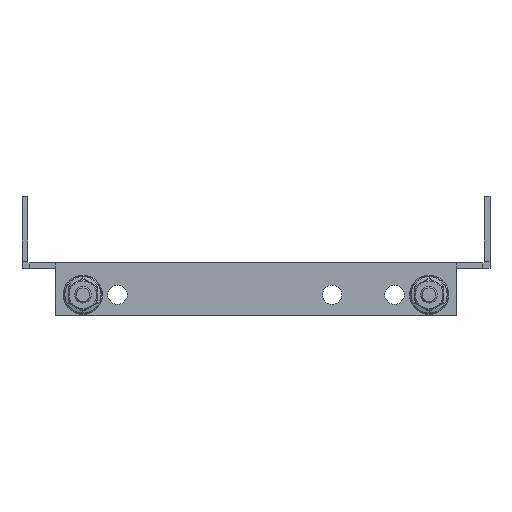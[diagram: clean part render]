
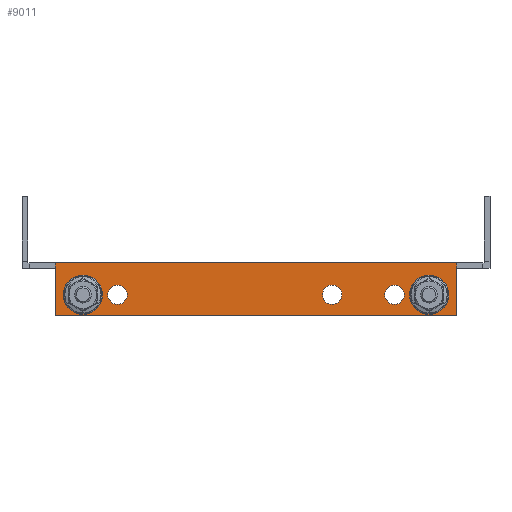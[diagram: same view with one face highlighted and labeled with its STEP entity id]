
A CAD part, left-side view. The second image highlights one B-rep face of the part: STEP entity #9011.
In plain terms, the highlighted planar face has unit normal (-1, 0, 0).
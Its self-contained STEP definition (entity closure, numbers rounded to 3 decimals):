
#3854 = VERTEX_POINT('',#3855);
#3855 = CARTESIAN_POINT('',(-150.,72.5,2.));
#3861 = EDGE_CURVE('',#3862,#3854,#3864,.T.);
#3862 = VERTEX_POINT('',#3863);
#3863 = CARTESIAN_POINT('',(-150.,-72.5,2.));
#3864 = LINE('',#3865,#3866);
#3865 = CARTESIAN_POINT('',(-150.,-82.5,2.));
#3866 = VECTOR('',#3867,1.);
#3867 = DIRECTION('',(-0.,1.,-0.));
#8890 = VERTEX_POINT('',#8891);
#8891 = CARTESIAN_POINT('',(-150.,-72.5,-0.6));
#8906 = EDGE_CURVE('',#8890,#3862,#8907,.T.);
#8907 = LINE('',#8908,#8909);
#8908 = CARTESIAN_POINT('',(-150.,-72.5,-0.6));
#8909 = VECTOR('',#8910,1.);
#8910 = DIRECTION('',(0.,-0.,1.));
#8930 = VERTEX_POINT('',#8931);
#8931 = CARTESIAN_POINT('',(-150.,72.5,-0.6));
#8937 = EDGE_CURVE('',#8930,#3854,#8938,.T.);
#8938 = LINE('',#8939,#8940);
#8939 = CARTESIAN_POINT('',(-150.,72.5,0.));
#8940 = VECTOR('',#8941,1.);
#8941 = DIRECTION('',(0.,0.,1.));
#8953 = EDGE_CURVE('',#8954,#8930,#8956,.T.);
#8954 = VERTEX_POINT('',#8955);
#8955 = CARTESIAN_POINT('',(-150.,72.5,-17.));
#8956 = LINE('',#8957,#8958);
#8957 = CARTESIAN_POINT('',(-150.,72.5,0.));
#8958 = VECTOR('',#8959,1.);
#8959 = DIRECTION('',(0.,-0.,1.));
#8993 = EDGE_CURVE('',#8890,#8994,#8996,.T.);
#8994 = VERTEX_POINT('',#8995);
#8995 = CARTESIAN_POINT('',(-150.,-72.5,-17.));
#8996 = LINE('',#8997,#8998);
#8997 = CARTESIAN_POINT('',(-150.,-72.5,-17.));
#8998 = VECTOR('',#8999,1.);
#8999 = DIRECTION('',(0.,-0.,-1.));
#9011 = ADVANCED_FACE('',(#9012,#9023,#9043,#9063,#9074,#9085),#9098,.T.
  );
#9012 = FACE_BOUND('',#9013,.T.);
#9013 = EDGE_LOOP('',(#9014));
#9014 = ORIENTED_EDGE('',*,*,#9015,.T.);
#9015 = EDGE_CURVE('',#9016,#9016,#9018,.T.);
#9016 = VERTEX_POINT('',#9017);
#9017 = CARTESIAN_POINT('',(-150.,-27.5,-13.));
#9018 = CIRCLE('',#9019,3.5);
#9019 = AXIS2_PLACEMENT_3D('',#9020,#9021,#9022);
#9020 = CARTESIAN_POINT('',(-150.,-27.5,-9.5));
#9021 = DIRECTION('',(1.,0.,0.));
#9022 = DIRECTION('',(0.,-0.,-1.));
#9023 = FACE_BOUND('',#9024,.T.);
#9024 = EDGE_LOOP('',(#9025,#9036));
#9025 = ORIENTED_EDGE('',*,*,#9026,.F.);
#9026 = EDGE_CURVE('',#9027,#9029,#9031,.T.);
#9027 = VERTEX_POINT('',#9028);
#9028 = CARTESIAN_POINT('',(-150.,-62.5,-13.));
#9029 = VERTEX_POINT('',#9030);
#9030 = CARTESIAN_POINT('',(-150.,-62.5,-6.));
#9031 = CIRCLE('',#9032,3.5);
#9032 = AXIS2_PLACEMENT_3D('',#9033,#9034,#9035);
#9033 = CARTESIAN_POINT('',(-150.,-62.5,-9.5));
#9034 = DIRECTION('',(-1.,0.,0.));
#9035 = DIRECTION('',(0.,0.,-1.));
#9036 = ORIENTED_EDGE('',*,*,#9037,.F.);
#9037 = EDGE_CURVE('',#9029,#9027,#9038,.T.);
#9038 = CIRCLE('',#9039,3.5);
#9039 = AXIS2_PLACEMENT_3D('',#9040,#9041,#9042);
#9040 = CARTESIAN_POINT('',(-150.,-62.5,-9.5));
#9041 = DIRECTION('',(-1.,0.,0.));
#9042 = DIRECTION('',(0.,0.,-1.));
#9043 = FACE_BOUND('',#9044,.T.);
#9044 = EDGE_LOOP('',(#9045,#9056));
#9045 = ORIENTED_EDGE('',*,*,#9046,.F.);
#9046 = EDGE_CURVE('',#9047,#9049,#9051,.T.);
#9047 = VERTEX_POINT('',#9048);
#9048 = CARTESIAN_POINT('',(-150.,-50.,-13.));
#9049 = VERTEX_POINT('',#9050);
#9050 = CARTESIAN_POINT('',(-150.,-50.,-6.));
#9051 = CIRCLE('',#9052,3.5);
#9052 = AXIS2_PLACEMENT_3D('',#9053,#9054,#9055);
#9053 = CARTESIAN_POINT('',(-150.,-50.,-9.5));
#9054 = DIRECTION('',(-1.,0.,0.));
#9055 = DIRECTION('',(0.,0.,-1.));
#9056 = ORIENTED_EDGE('',*,*,#9057,.F.);
#9057 = EDGE_CURVE('',#9049,#9047,#9058,.T.);
#9058 = CIRCLE('',#9059,3.5);
#9059 = AXIS2_PLACEMENT_3D('',#9060,#9061,#9062);
#9060 = CARTESIAN_POINT('',(-150.,-50.,-9.5));
#9061 = DIRECTION('',(-1.,0.,0.));
#9062 = DIRECTION('',(0.,0.,-1.));
#9063 = FACE_BOUND('',#9064,.T.);
#9064 = EDGE_LOOP('',(#9065));
#9065 = ORIENTED_EDGE('',*,*,#9066,.F.);
#9066 = EDGE_CURVE('',#9067,#9067,#9069,.T.);
#9067 = VERTEX_POINT('',#9068);
#9068 = CARTESIAN_POINT('',(-150.,50.,-6.));
#9069 = CIRCLE('',#9070,3.5);
#9070 = AXIS2_PLACEMENT_3D('',#9071,#9072,#9073);
#9071 = CARTESIAN_POINT('',(-150.,50.,-9.5));
#9072 = DIRECTION('',(-1.,0.,0.));
#9073 = DIRECTION('',(0.,0.,1.));
#9074 = FACE_BOUND('',#9075,.T.);
#9075 = EDGE_LOOP('',(#9076));
#9076 = ORIENTED_EDGE('',*,*,#9077,.F.);
#9077 = EDGE_CURVE('',#9078,#9078,#9080,.T.);
#9078 = VERTEX_POINT('',#9079);
#9079 = CARTESIAN_POINT('',(-150.,62.5,-6.));
#9080 = CIRCLE('',#9081,3.5);
#9081 = AXIS2_PLACEMENT_3D('',#9082,#9083,#9084);
#9082 = CARTESIAN_POINT('',(-150.,62.5,-9.5));
#9083 = DIRECTION('',(-1.,0.,0.));
#9084 = DIRECTION('',(0.,0.,1.));
#9085 = FACE_BOUND('',#9086,.T.);
#9086 = EDGE_LOOP('',(#9087,#9088,#9089,#9090,#9091,#9092));
#9087 = ORIENTED_EDGE('',*,*,#8993,.F.);
#9088 = ORIENTED_EDGE('',*,*,#8906,.T.);
#9089 = ORIENTED_EDGE('',*,*,#3861,.T.);
#9090 = ORIENTED_EDGE('',*,*,#8937,.F.);
#9091 = ORIENTED_EDGE('',*,*,#8953,.F.);
#9092 = ORIENTED_EDGE('',*,*,#9093,.F.);
#9093 = EDGE_CURVE('',#8994,#8954,#9094,.T.);
#9094 = LINE('',#9095,#9096);
#9095 = CARTESIAN_POINT('',(-150.,72.5,-17.));
#9096 = VECTOR('',#9097,1.);
#9097 = DIRECTION('',(-0.,1.,-0.));
#9098 = PLANE('',#9099);
#9099 = AXIS2_PLACEMENT_3D('',#9100,#9101,#9102);
#9100 = CARTESIAN_POINT('',(-150.,72.5,0.));
#9101 = DIRECTION('',(-1.,0.,0.));
#9102 = DIRECTION('',(0.,0.,1.));
